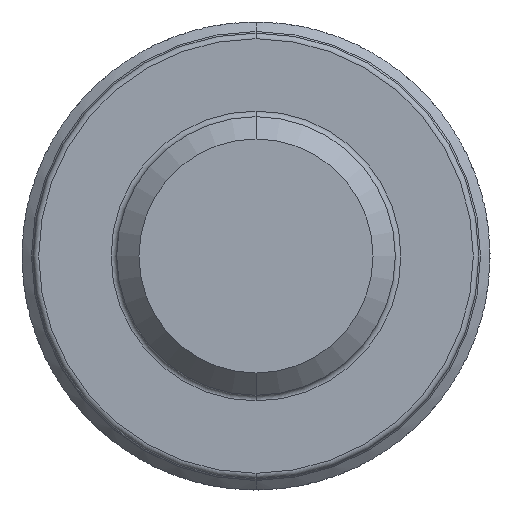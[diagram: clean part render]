
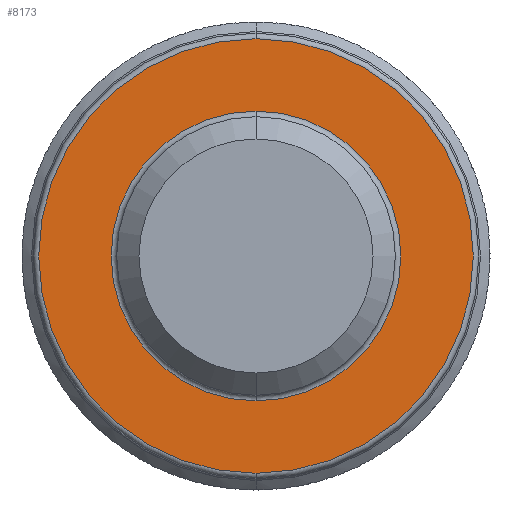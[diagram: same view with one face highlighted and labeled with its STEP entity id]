
A CAD part, front view. The second image highlights one B-rep face of the part: STEP entity #8173.
In plain terms, the highlighted planar face has unit normal (0, -1, 0).
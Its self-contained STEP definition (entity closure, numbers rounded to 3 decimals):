
#147 = DIRECTION ( 'NONE',  ( 0., 0., -1. ) ) ;
#243 = PLANE ( 'NONE',  #2887 ) ;
#550 = CARTESIAN_POINT ( 'NONE',  ( 0., -5., 0. ) ) ;
#603 = DIRECTION ( 'NONE',  ( 0., -1., 0. ) ) ;
#704 = ORIENTED_EDGE ( 'NONE', *, *, #3280, .T. ) ;
#1139 = DIRECTION ( 'NONE',  ( 0., -1., 0. ) ) ;
#1244 = CARTESIAN_POINT ( 'NONE',  ( 0., -5., -3.9 ) ) ;
#1306 = CARTESIAN_POINT ( 'NONE',  ( 0., -5., -2.6 ) ) ;
#1458 = AXIS2_PLACEMENT_3D ( 'NONE', #3368, #5945, #7243 ) ;
#1623 = AXIS2_PLACEMENT_3D ( 'NONE', #6694, #3567, #3687 ) ;
#1676 = ORIENTED_EDGE ( 'NONE', *, *, #1691, .T. ) ;
#1691 = EDGE_CURVE ( 'NONE', #5076, #5589, #7658, .T. ) ;
#1803 = CARTESIAN_POINT ( 'NONE',  ( 0., -5., 2.6 ) ) ;
#1996 = EDGE_LOOP ( 'NONE', ( #704, #3299 ) ) ;
#2105 = DIRECTION ( 'NONE',  ( 0., -1., 0. ) ) ;
#2832 = CARTESIAN_POINT ( 'NONE',  ( 0., -5., 3.9 ) ) ;
#2838 = EDGE_LOOP ( 'NONE', ( #1676, #4808 ) ) ;
#2887 = AXIS2_PLACEMENT_3D ( 'NONE', #7252, #2105, #7847 ) ;
#2915 = FACE_OUTER_BOUND ( 'NONE', #1996, .T. ) ;
#3280 = EDGE_CURVE ( 'NONE', #3633, #8191, #7533, .T. ) ;
#3299 = ORIENTED_EDGE ( 'NONE', *, *, #3909, .T. ) ;
#3368 = CARTESIAN_POINT ( 'NONE',  ( 0., -5., 0. ) ) ;
#3464 = FACE_BOUND ( 'NONE', #2838, .T. ) ;
#3567 = DIRECTION ( 'NONE',  ( 0., 1., 0. ) ) ;
#3633 = VERTEX_POINT ( 'NONE', #1244 ) ;
#3687 = DIRECTION ( 'NONE',  ( 0., 0., -1. ) ) ;
#3909 = EDGE_CURVE ( 'NONE', #8191, #3633, #5924, .T. ) ;
#4449 = CARTESIAN_POINT ( 'NONE',  ( 0., -5., 0. ) ) ;
#4808 = ORIENTED_EDGE ( 'NONE', *, *, #4879, .T. ) ;
#4879 = EDGE_CURVE ( 'NONE', #5589, #5076, #6076, .T. ) ;
#5076 = VERTEX_POINT ( 'NONE', #1306 ) ;
#5125 = DIRECTION ( 'NONE',  ( 0., 0., -1. ) ) ;
#5589 = VERTEX_POINT ( 'NONE', #1803 ) ;
#5924 = CIRCLE ( 'NONE', #6467, 3.9 ) ;
#5945 = DIRECTION ( 'NONE',  ( 0., 1., 0. ) ) ;
#6076 = CIRCLE ( 'NONE', #1623, 2.6 ) ;
#6467 = AXIS2_PLACEMENT_3D ( 'NONE', #4449, #603, #5125 ) ;
#6694 = CARTESIAN_POINT ( 'NONE',  ( 0., -5., 0. ) ) ;
#7243 = DIRECTION ( 'NONE',  ( 0., 0., -1. ) ) ;
#7252 = CARTESIAN_POINT ( 'NONE',  ( 2.5, -5., 0. ) ) ;
#7533 = CIRCLE ( 'NONE', #8078, 3.9 ) ;
#7658 = CIRCLE ( 'NONE', #1458, 2.6 ) ;
#7847 = DIRECTION ( 'NONE',  ( 0., 0., -1. ) ) ;
#8078 = AXIS2_PLACEMENT_3D ( 'NONE', #550, #1139, #147 ) ;
#8173 = ADVANCED_FACE ( 'NONE', ( #3464, #2915 ), #243, .T. ) ;
#8191 = VERTEX_POINT ( 'NONE', #2832 ) ;
